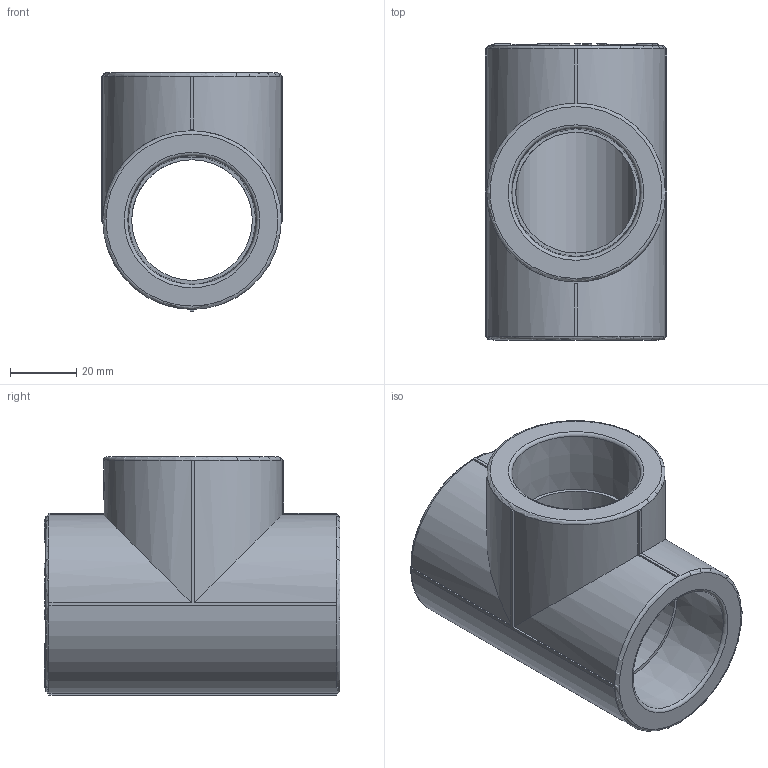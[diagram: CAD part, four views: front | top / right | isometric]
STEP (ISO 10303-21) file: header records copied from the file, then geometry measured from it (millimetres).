
FILE_DESCRIPTION(('STEP AP203'), '1');
FILE_NAME('ÂÐ.752241.029 - VTp.731.0.040', '', ('UNSPECIFIED'), ('UNSPECIFIED'), 'C3D Converter', 'C3D Toolkit', '');
FILE_SCHEMA(('CONFIG_CONTROL_DESIGN'));
Length unit declared in the file: millimetre
Products named in the file (1): ВР.752241.029
Bounding box: 55 x 89.5 x 72 mm (x, y, z)
Volume: 121457.7 mm3; surface area: 33802.3 mm2
Topology: 1 solids, 1 shells, 1047 faces, 2935 edges, 1947 vertices
Faces by surface type: extrusion 605, plane 396, cylinder 37, torus 6, cone 3
Full cylindrical faces by diameter (mm): 8 x1, 36.5 x2
Entity records: 38746 total; most frequent: CARTESIAN_POINT 15018, ORIENTED_EDGE 5844, DIRECTION 2945, EDGE_CURVE 2922, VECTOR 1977, VERTEX_POINT 1947, B_SPLINE_CURVE_WITH_KNOTS 1816, LINE 1372
